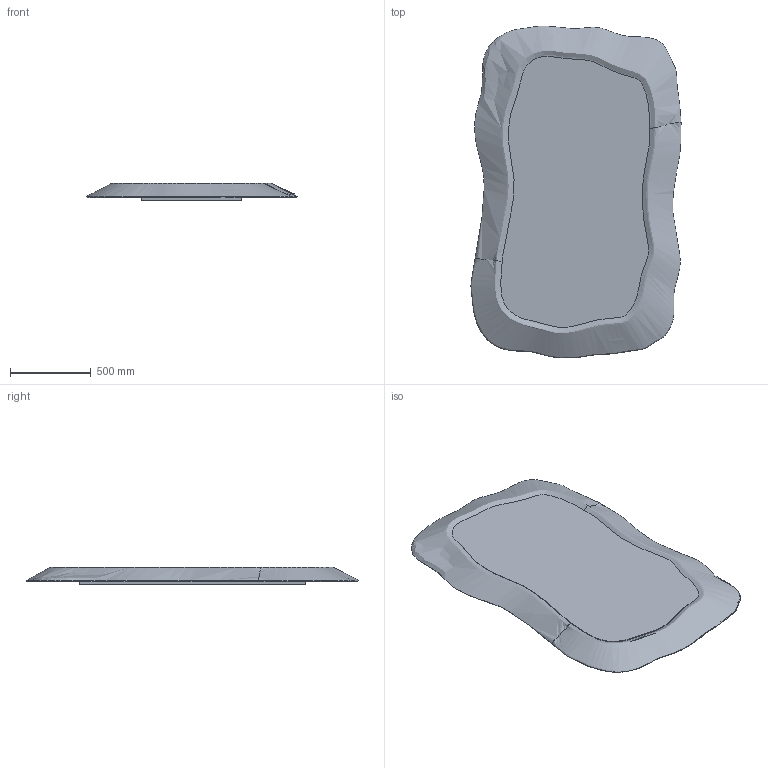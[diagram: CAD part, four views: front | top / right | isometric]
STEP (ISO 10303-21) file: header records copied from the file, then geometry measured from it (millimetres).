
FILE_DESCRIPTION(/* description */ (''),/* implementation_level */ '2;1');
FILE_NAME(/* name */ 'STI208',/* time_stamp */ '2026-07-03T15:39:31+02:00',/* author */ (''),/* organization */ (''),/* preprocessor_version */ 'ST-DEVELOPER v16.5',/* originating_system */ '',/* authorisation */ '');
FILE_SCHEMA (('AUTOMOTIVE_DESIGN'));
Length unit declared in the file: millimetre
Products named in the file (1): Document
Bounding box: 1301 x 2055.87 x 106.88 mm (x, y, z)
Volume: 35993315.8 mm3; surface area: 8840501.8 mm2
Topology: 4 solids, 4 shells, 28 faces, 58 edges, 34 vertices
Faces by surface type: plane 19, bspline 9
Entity records: 59200 total; most frequent: CARTESIAN_POINT 58729, ORIENTED_EDGE 108, EDGE_CURVE 54, B_SPLINE_CURVE_WITH_KNOTS 54, VERTEX_POINT 34, EDGE_LOOP 30, ADVANCED_FACE 28, FACE_OUTER_BOUND 28
